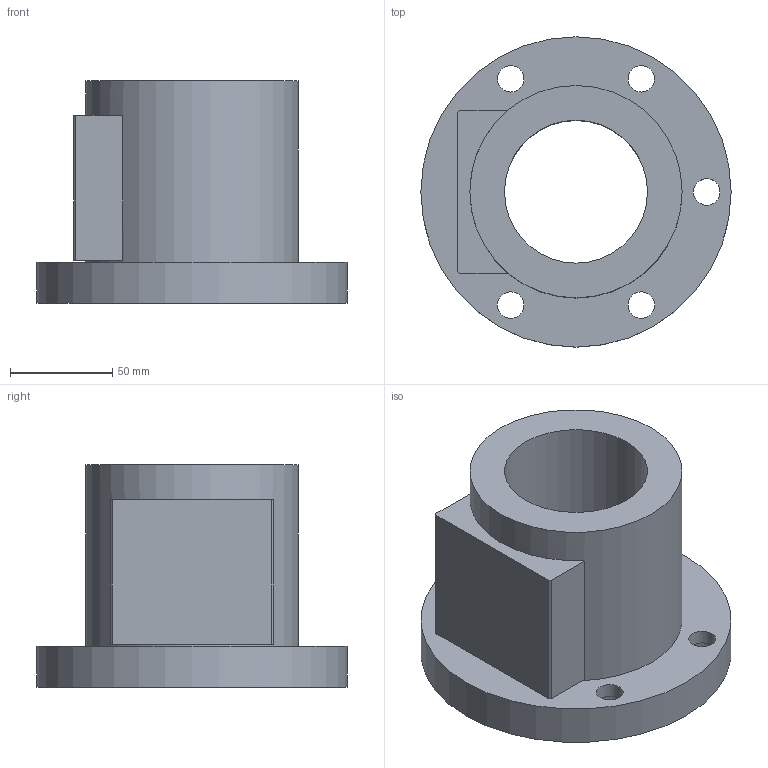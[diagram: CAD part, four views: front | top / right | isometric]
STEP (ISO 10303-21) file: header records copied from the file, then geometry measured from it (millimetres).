
FILE_DESCRIPTION(/* description */ (''),/* implementation_level */ '2;1');
FILE_NAME(/* name */ '70-10B2',/* time_stamp */ '2006-07-31T11:56:01+08:00',/* author */ (''),/* organization */ (''),/* preprocessor_version */ 'ST-DEVELOPER v9',/* originating_system */ 'UGS - NX 4.0',/* authorisation */ '');
FILE_SCHEMA (('CONFIG_CONTROL_DESIGN'));
Length unit declared in the file: millimetre
Products named in the file (1): 70-10B2
Bounding box: 152 x 152 x 109 mm (x, y, z)
Volume: 740890.6 mm3; surface area: 100014.3 mm2
Topology: 1 solids, 1 shells, 30 faces, 67 edges, 46 vertices
Faces by surface type: plane 17, cylinder 13
Full cylindrical faces by diameter (mm): 13 x5, 20 x5, 70 x1, 104 x1, 152 x1
Entity records: 860 total; most frequent: DIRECTION 140, CARTESIAN_POINT 123, ORIENTED_EDGE 100, EDGE_LOOP 62, AXIS2_PLACEMENT_3D 59, EDGE_CURVE 50, FACE_BOUND 45, VERTEX_POINT 42
